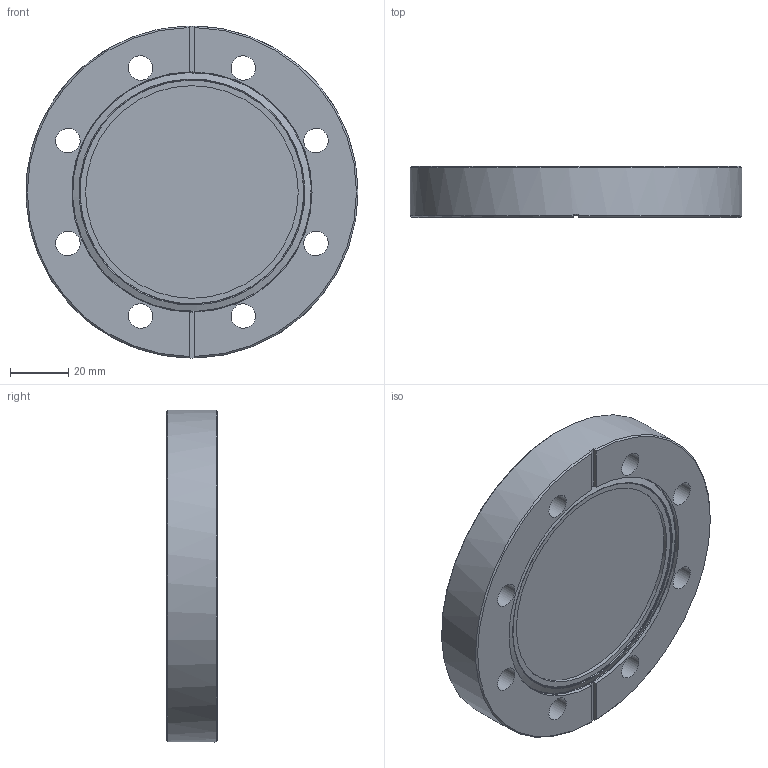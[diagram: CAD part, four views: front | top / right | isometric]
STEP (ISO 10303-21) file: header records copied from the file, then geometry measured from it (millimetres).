
FILE_DESCRIPTION(/* description */ (''),/* implementation_level */ '2;1');
FILE_NAME(/* name */ '',/* time_stamp */ '2024-03-04T17:04:01+09:00',/* author */ (''),/* organization */ (''),/* preprocessor_version */ 'ST-DEVELOPER v20',/* originating_system */ 'Autodesk Translation Framework v12.20.1.177',/* authorisation */ '');
FILE_SCHEMA (('AUTOMOTIVE_DESIGN { 1 0 10303 214 3 1 1 }'));
Length unit declared in the file: millimetre
Products named in the file (1): 2107-4078-C ICF114(17.5)ブランク(BeCu)溝あり
Bounding box: 113.95 x 17.5 x 114 mm (x, y, z)
Volume: 158903 mm3; surface area: 30123.8 mm2
Topology: 1 solids, 1 shells, 30 faces, 80 edges, 53 vertices
Faces by surface type: cylinder 12, plane 11, cone 4, torus 3
Full cylindrical faces by diameter (mm): 8.4 x8, 73 x1, 77.2 x1, 82.5 x1, 114 x1
Entity records: 1043 total; most frequent: DIRECTION 188, CARTESIAN_POINT 164, ORIENTED_EDGE 160, EDGE_CURVE 80, AXIS2_PLACEMENT_3D 77, VERTEX_POINT 53, EDGE_LOOP 47, CIRCLE 46
